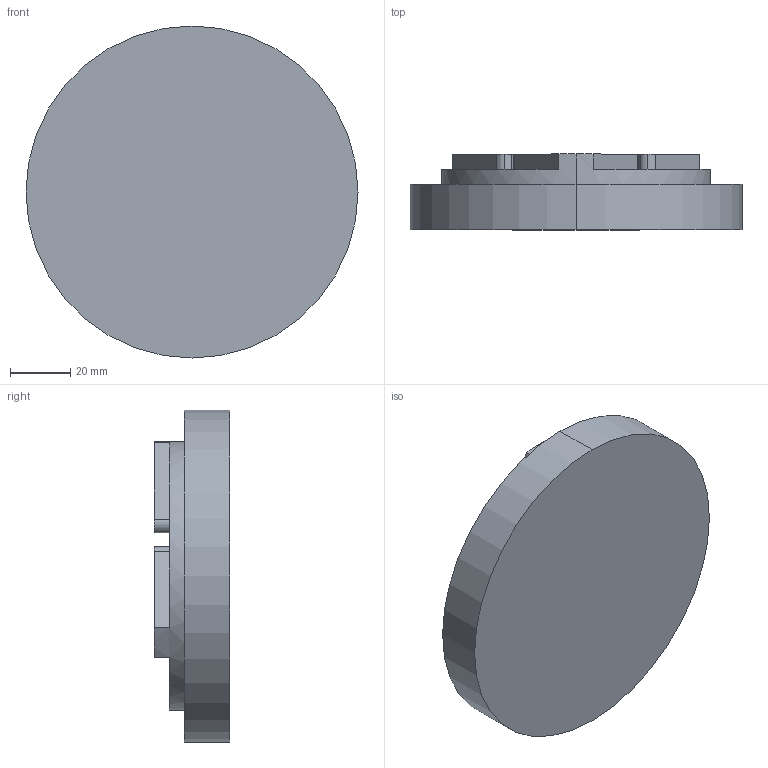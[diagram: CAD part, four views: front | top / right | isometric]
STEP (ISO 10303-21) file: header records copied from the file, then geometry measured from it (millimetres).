
FILE_DESCRIPTION (( 'STEP AP214' ), '1' );
FILE_NAME ('Alus.STEP', '2025-05-19T11:58:44', ( '' ), ( '' ), 'SwSTEP 2.0', 'SolidWorks 2024', '' );
FILE_SCHEMA (( 'AUTOMOTIVE_DESIGN' ));
Length unit declared in the file: millimetre
Products named in the file (1): Alus
Bounding box: 109.9 x 25 x 109.9 mm (x, y, z)
Volume: 186007.9 mm3; surface area: 27314.9 mm2
Topology: 1 solids, 1 shells, 27 faces, 72 edges, 48 vertices
Faces by surface type: plane 15, cylinder 12
Entity records: 879 total; most frequent: DIRECTION 158, CARTESIAN_POINT 148, ORIENTED_EDGE 144, EDGE_CURVE 72, AXIS2_PLACEMENT_3D 58, VERTEX_POINT 48, VECTOR 42, LINE 42
